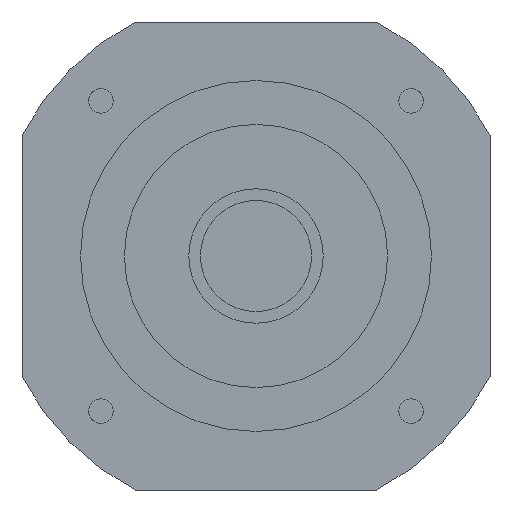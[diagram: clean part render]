
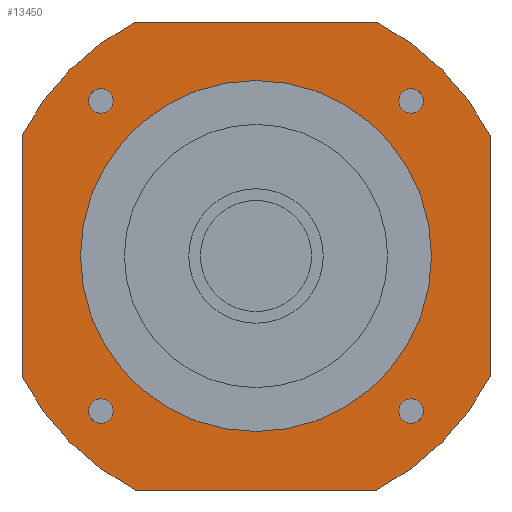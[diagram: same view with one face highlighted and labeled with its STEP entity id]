
A CAD part, left-side view. The second image highlights one B-rep face of the part: STEP entity #13450.
In plain terms, the highlighted planar face has unit normal (-1, 0, 0) as drawn and (0, 0, -1) by its records, which use the part's own axes.
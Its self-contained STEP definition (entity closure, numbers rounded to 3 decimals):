
#8640=CARTESIAN_POINT('',(-20.616,40.,-42.2));
#8650=VERTEX_POINT('',#8640);
#8830=CARTESIAN_POINT('',(-40.,20.616,-42.2));
#8840=VERTEX_POINT('',#8830);
#8870=CARTESIAN_POINT('',(0.,0.,
-42.2));
#8880=DIRECTION('',(0.,0.,1.));
#8890=DIRECTION('',(-1.,0.,0.));
#8900=AXIS2_PLACEMENT_3D('',#8870,#8880,#8890);
#8910=CIRCLE('',#8900,45.);
#8920=EDGE_CURVE('',#8650,#8840,#8910,.T.);
#9060=CARTESIAN_POINT('',(-40.,-20.616,-42.2));
#9070=VERTEX_POINT('',#9060);
#9250=CARTESIAN_POINT('',(-20.616,-40.,-42.2));
#9260=VERTEX_POINT('',#9250);
#9290=CARTESIAN_POINT('',(0.,0.,
-42.2));
#9300=DIRECTION('',(0.,0.,1.));
#9310=DIRECTION('',(-1.,0.,0.));
#9320=AXIS2_PLACEMENT_3D('',#9290,#9300,#9310);
#9330=CIRCLE('',#9320,45.);
#9340=EDGE_CURVE('',#9070,#9260,#9330,.T.);
#11990=CARTESIAN_POINT('',(40.,40.,-42.2));
#12000=DIRECTION('',(0.,0.,1.));
#12010=DIRECTION('',(-1.,0.,0.));
#12020=AXIS2_PLACEMENT_3D('',#11990,#12000,#12010);
#12030=PLANE('',#12020);
#12040=CARTESIAN_POINT('',(-26.517,26.517,-42.2));
#12050=DIRECTION('',(0.,0.,-1.));
#12060=DIRECTION('',(0.,-1.,0.));
#12070=AXIS2_PLACEMENT_3D('',#12040,#12050,#12060);
#12080=CIRCLE('',#12070,2.1);
#12090=CARTESIAN_POINT('',(-26.517,24.417,-42.2));
#12100=VERTEX_POINT('',#12090);
#12110=CARTESIAN_POINT('',(-28.617,26.517,-42.2));
#12120=VERTEX_POINT('',#12110);
#12130=EDGE_CURVE('',#12100,#12120,#12080,.T.);
#12140=ORIENTED_EDGE('',*,*,#12130,.F.);
#12150=CARTESIAN_POINT('',(-24.417,26.517,-42.2));
#12160=VERTEX_POINT('',#12150);
#12170=EDGE_CURVE('',#12120,#12160,#12080,.T.);
#12180=ORIENTED_EDGE('',*,*,#12170,.F.);
#12190=EDGE_CURVE('',#12160,#12100,#12080,.T.);
#12200=ORIENTED_EDGE('',*,*,#12190,.F.);
#12210=EDGE_LOOP('',(#12200,#12180,#12140));
#12220=FACE_BOUND('',#12210,.T.);
#12230=CARTESIAN_POINT('',(26.517,26.517,-42.2));
#12240=DIRECTION('',(0.,0.,-1.));
#12250=DIRECTION('',(0.,-1.,0.));
#12260=AXIS2_PLACEMENT_3D('',#12230,#12240,#12250);
#12270=CIRCLE('',#12260,2.1);
#12280=CARTESIAN_POINT('',(26.517,24.417,-42.2));
#12290=VERTEX_POINT('',#12280);
#12300=CARTESIAN_POINT('',(24.417,26.517,-42.2));
#12310=VERTEX_POINT('',#12300);
#12320=EDGE_CURVE('',#12290,#12310,#12270,.T.);
#12330=ORIENTED_EDGE('',*,*,#12320,.F.);
#12340=CARTESIAN_POINT('',(28.617,26.517,-42.2));
#12350=VERTEX_POINT('',#12340);
#12360=EDGE_CURVE('',#12310,#12350,#12270,.T.);
#12370=ORIENTED_EDGE('',*,*,#12360,.F.);
#12380=EDGE_CURVE('',#12350,#12290,#12270,.T.);
#12390=ORIENTED_EDGE('',*,*,#12380,.F.);
#12400=EDGE_LOOP('',(#12390,#12370,#12330));
#12410=FACE_BOUND('',#12400,.T.);
#12420=CARTESIAN_POINT('',(26.517,-26.517,-42.2));
#12430=DIRECTION('',(0.,0.,-1.));
#12440=DIRECTION('',(0.,-1.,0.));
#12450=AXIS2_PLACEMENT_3D('',#12420,#12430,#12440);
#12460=CIRCLE('',#12450,2.1);
#12470=CARTESIAN_POINT('',(26.517,-28.617,-42.2));
#12480=VERTEX_POINT('',#12470);
#12490=CARTESIAN_POINT('',(24.417,-26.517,-42.2));
#12500=VERTEX_POINT('',#12490);
#12510=EDGE_CURVE('',#12480,#12500,#12460,.T.);
#12520=ORIENTED_EDGE('',*,*,#12510,.F.);
#12530=CARTESIAN_POINT('',(28.617,-26.517,-42.2));
#12540=VERTEX_POINT('',#12530);
#12550=EDGE_CURVE('',#12500,#12540,#12460,.T.);
#12560=ORIENTED_EDGE('',*,*,#12550,.F.);
#12570=EDGE_CURVE('',#12540,#12480,#12460,.T.);
#12580=ORIENTED_EDGE('',*,*,#12570,.F.);
#12590=EDGE_LOOP('',(#12580,#12560,#12520));
#12600=FACE_BOUND('',#12590,.T.);
#12610=CARTESIAN_POINT('',(0.,0.,
-42.2));
#12620=DIRECTION('',(0.,0.,1.));
#12630=DIRECTION('',(1.,0.,0.));
#12640=AXIS2_PLACEMENT_3D('',#12610,#12620,#12630);
#12650=CIRCLE('',#12640,30.);
#12660=CARTESIAN_POINT('',(30.,0.,-42.2));
#12670=VERTEX_POINT('',#12660);
#12680=CARTESIAN_POINT('',(-30.,0.,-42.2));
#12690=VERTEX_POINT('',#12680);
#12700=EDGE_CURVE('',#12670,#12690,#12650,.T.);
#12710=ORIENTED_EDGE('',*,*,#12700,.T.);
#12720=EDGE_CURVE('',#12690,#12670,#12650,.T.);
#12730=ORIENTED_EDGE('',*,*,#12720,.T.);
#12740=EDGE_LOOP('',(#12730,#12710));
#12750=FACE_BOUND('',#12740,.T.);
#12760=CARTESIAN_POINT('',(-26.517,-26.517,-42.2));
#12770=DIRECTION('',(0.,0.,-1.));
#12780=DIRECTION('',(0.,-1.,0.));
#12790=AXIS2_PLACEMENT_3D('',#12760,#12770,#12780);
#12800=CIRCLE('',#12790,2.1);
#12810=CARTESIAN_POINT('',(-26.517,-28.617,-42.2));
#12820=VERTEX_POINT('',#12810);
#12830=CARTESIAN_POINT('',(-28.617,-26.517,-42.2));
#12840=VERTEX_POINT('',#12830);
#12850=EDGE_CURVE('',#12820,#12840,#12800,.T.);
#12860=ORIENTED_EDGE('',*,*,#12850,.F.);
#12870=CARTESIAN_POINT('',(-24.417,-26.517,-42.2));
#12880=VERTEX_POINT('',#12870);
#12890=EDGE_CURVE('',#12840,#12880,#12800,.T.);
#12900=ORIENTED_EDGE('',*,*,#12890,.F.);
#12910=EDGE_CURVE('',#12880,#12820,#12800,.T.);
#12920=ORIENTED_EDGE('',*,*,#12910,.F.);
#12930=EDGE_LOOP('',(#12920,#12900,#12860));
#12940=FACE_BOUND('',#12930,.T.);
#12950=ORIENTED_EDGE('',*,*,#9340,.F.);
#12960=CARTESIAN_POINT('',(-40.,-40.,-42.2));
#12970=DIRECTION('',(1.,0.,0.));
#12980=VECTOR('',#12970,1000.);
#12990=LINE('',#12960,#12980);
#13000=CARTESIAN_POINT('',(20.616,-40.,-42.2));
#13010=VERTEX_POINT('',#13000);
#13020=EDGE_CURVE('',#9260,#13010,#12990,.T.);
#13030=ORIENTED_EDGE('',*,*,#13020,.F.);
#13040=CARTESIAN_POINT('',(0.,0.,
-42.2));
#13050=DIRECTION('',(0.,0.,1.));
#13060=DIRECTION('',(-1.,0.,0.));
#13070=AXIS2_PLACEMENT_3D('',#13040,#13050,#13060);
#13080=CIRCLE('',#13070,45.);
#13090=CARTESIAN_POINT('',(40.,-20.616,-42.2));
#13100=VERTEX_POINT('',#13090);
#13110=EDGE_CURVE('',#13010,#13100,#13080,.T.);
#13120=ORIENTED_EDGE('',*,*,#13110,.F.);
#13130=CARTESIAN_POINT('',(40.,-40.,-42.2));
#13140=DIRECTION('',(0.,1.,0.));
#13150=VECTOR('',#13140,1000.);
#13160=LINE('',#13130,#13150);
#13170=CARTESIAN_POINT('',(40.,20.616,-42.2));
#13180=VERTEX_POINT('',#13170);
#13190=EDGE_CURVE('',#13100,#13180,#13160,.T.);
#13200=ORIENTED_EDGE('',*,*,#13190,.F.);
#13210=CARTESIAN_POINT('',(0.,0.,
-42.2));
#13220=DIRECTION('',(0.,0.,1.));
#13230=DIRECTION('',(-1.,0.,0.));
#13240=AXIS2_PLACEMENT_3D('',#13210,#13220,#13230);
#13250=CIRCLE('',#13240,45.);
#13260=CARTESIAN_POINT('',(20.616,40.,-42.2));
#13270=VERTEX_POINT('',#13260);
#13280=EDGE_CURVE('',#13180,#13270,#13250,.T.);
#13290=ORIENTED_EDGE('',*,*,#13280,.F.);
#13300=CARTESIAN_POINT('',(40.,40.,-42.2));
#13310=DIRECTION('',(-1.,0.,0.));
#13320=VECTOR('',#13310,1000.);
#13330=LINE('',#13300,#13320);
#13340=EDGE_CURVE('',#13270,#8650,#13330,.T.);
#13350=ORIENTED_EDGE('',*,*,#13340,.F.);
#13360=ORIENTED_EDGE('',*,*,#8920,.F.);
#13370=CARTESIAN_POINT('',(-40.,40.,-42.2));
#13380=DIRECTION('',(0.,-1.,0.));
#13390=VECTOR('',#13380,1000.);
#13400=LINE('',#13370,#13390);
#13410=EDGE_CURVE('',#8840,#9070,#13400,.T.);
#13420=ORIENTED_EDGE('',*,*,#13410,.F.);
#13430=EDGE_LOOP('',(#13420,#13360,#13350,#13290,#13200,#13120,#13030,
#12950));
#13440=FACE_OUTER_BOUND('',#13430,.T.);
#13450=ADVANCED_FACE('',(#12220,#12410,#12600,#12750,#12940,#13440),
#12030,.F.);
